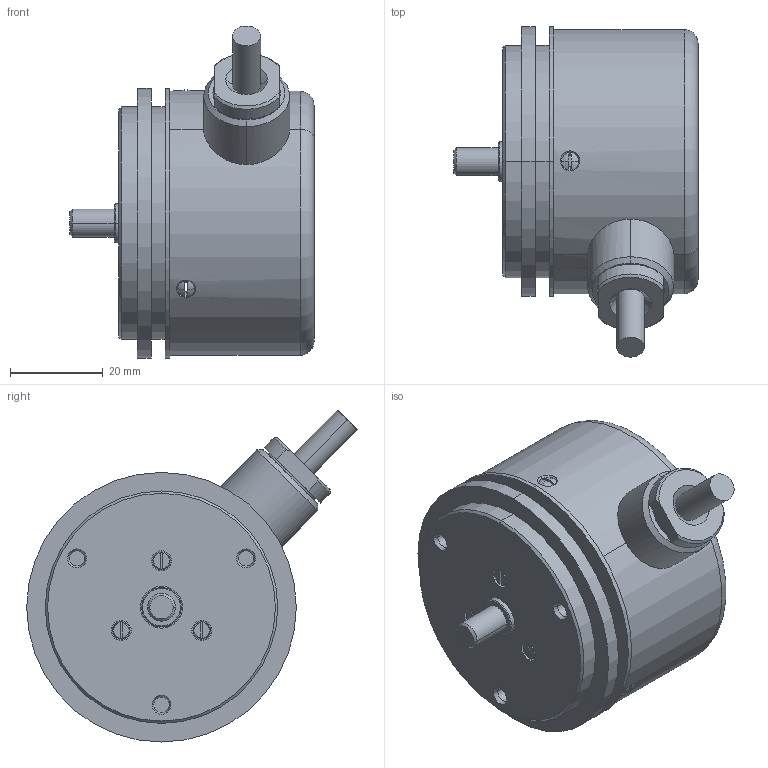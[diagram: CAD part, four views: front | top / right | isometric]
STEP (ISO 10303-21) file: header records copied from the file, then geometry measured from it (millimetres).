
FILE_DESCRIPTION (( 'STEP AP214' ), '1' );
FILE_NAME ('ËÈÐ-158À_èñï 3.STEP', '2017-05-23T08:42:24', ( '' ), ( '' ), 'SwSTEP 2.0', 'SolidWorks 2013', '' );
FILE_SCHEMA (( 'AUTOMOTIVE_DESIGN' ));
Length unit declared in the file: millimetre
Products named in the file (1): ËÈÐ-158À_èñï 3
Bounding box: 52.5 x 71.12 x 71.42 mm (x, y, z)
Surface area: 16457.3 mm2 (no closed solid volume)
Topology: 0 solids, 15 shells, 120 faces, 328 edges, 222 vertices
Faces by surface type: cylinder 37, plane 33, cone 24, sphere 12, torus 8, bspline 6
Entity records: 7970 total; most frequent: CARTESIAN_POINT 3638, DIRECTION 655, ORIENTED_EDGE 547, EDGE_CURVE 328, AXIS2_PLACEMENT_3D 278, VERTEX_POINT 222, CIRCLE 163, EDGE_LOOP 137
